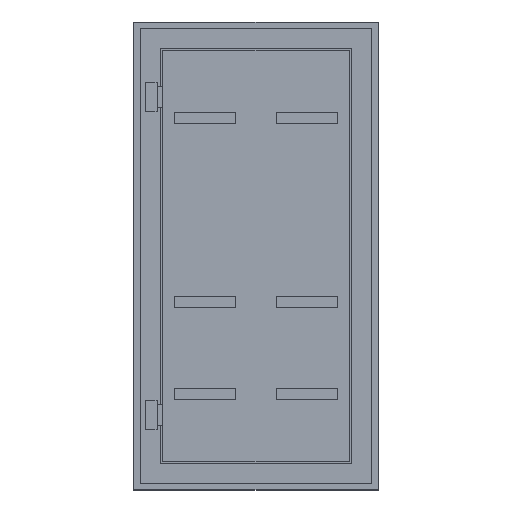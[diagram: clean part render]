
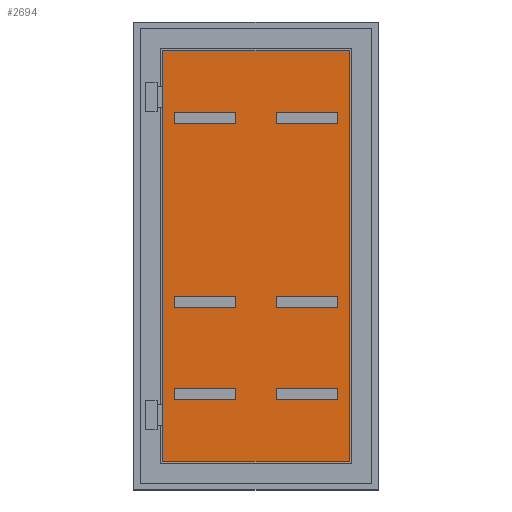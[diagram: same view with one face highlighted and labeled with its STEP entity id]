
A CAD part, top view. The second image highlights one B-rep face of the part: STEP entity #2694.
In plain terms, the highlighted planar face has unit normal (0, 0, 1).
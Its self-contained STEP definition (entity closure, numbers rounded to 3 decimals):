
#643=DIRECTION('',(0.,-1.,0.));
#644=VECTOR('',#643,1832.);
#645=CARTESIAN_POINT('',(-416.,916.,-41.));
#646=LINE('',#645,#644);
#647=DIRECTION('',(-1.,0.,0.));
#648=VECTOR('',#647,832.);
#649=CARTESIAN_POINT('',(416.,916.,-41.));
#650=LINE('',#649,#648);
#651=DIRECTION('',(0.,1.,0.));
#652=VECTOR('',#651,1832.);
#653=CARTESIAN_POINT('',(416.,-916.,-41.));
#654=LINE('',#653,#652);
#655=DIRECTION('',(1.,0.,0.));
#656=VECTOR('',#655,832.);
#657=CARTESIAN_POINT('',(-416.,-916.,-41.));
#658=LINE('',#657,#656);
#659=DIRECTION('',(1.,0.,0.));
#660=VECTOR('',#659,275.);
#661=CARTESIAN_POINT('',(-365.,590.,-41.));
#662=LINE('',#661,#660);
#663=DIRECTION('',(0.,1.,0.));
#664=VECTOR('',#663,50.);
#665=CARTESIAN_POINT('',(-90.,590.,-41.));
#666=LINE('',#665,#664);
#667=DIRECTION('',(1.,0.,0.));
#668=VECTOR('',#667,275.);
#669=CARTESIAN_POINT('',(-365.,640.,-41.));
#670=LINE('',#669,#668);
#671=DIRECTION('',(0.,1.,0.));
#672=VECTOR('',#671,50.);
#673=CARTESIAN_POINT('',(-365.,590.,-41.));
#674=LINE('',#673,#672);
#675=DIRECTION('',(1.,0.,0.));
#676=VECTOR('',#675,275.);
#677=CARTESIAN_POINT('',(90.,590.,-41.));
#678=LINE('',#677,#676);
#679=DIRECTION('',(0.,1.,0.));
#680=VECTOR('',#679,50.);
#681=CARTESIAN_POINT('',(365.,590.,-41.));
#682=LINE('',#681,#680);
#683=DIRECTION('',(1.,0.,0.));
#684=VECTOR('',#683,275.);
#685=CARTESIAN_POINT('',(90.,640.,-41.));
#686=LINE('',#685,#684);
#687=DIRECTION('',(0.,1.,0.));
#688=VECTOR('',#687,50.);
#689=CARTESIAN_POINT('',(90.,590.,-41.));
#690=LINE('',#689,#688);
#691=DIRECTION('',(0.,-1.,0.));
#692=VECTOR('',#691,50.);
#693=CARTESIAN_POINT('',(90.,-180.,-41.));
#694=LINE('',#693,#692);
#695=DIRECTION('',(1.,0.,0.));
#696=VECTOR('',#695,275.);
#697=CARTESIAN_POINT('',(90.,-230.,-41.));
#698=LINE('',#697,#696);
#699=DIRECTION('',(0.,1.,0.));
#700=VECTOR('',#699,50.);
#701=CARTESIAN_POINT('',(365.,-230.,-41.));
#702=LINE('',#701,#700);
#703=DIRECTION('',(-1.,0.,0.));
#704=VECTOR('',#703,275.);
#705=CARTESIAN_POINT('',(365.,-180.,-41.));
#706=LINE('',#705,#704);
#707=DIRECTION('',(-1.,0.,0.));
#708=VECTOR('',#707,275.);
#709=CARTESIAN_POINT('',(-90.,-180.,-41.));
#710=LINE('',#709,#708);
#711=DIRECTION('',(0.,-1.,0.));
#712=VECTOR('',#711,50.);
#713=CARTESIAN_POINT('',(-365.,-180.,-41.));
#714=LINE('',#713,#712);
#715=DIRECTION('',(1.,0.,0.));
#716=VECTOR('',#715,275.);
#717=CARTESIAN_POINT('',(-365.,-230.,-41.));
#718=LINE('',#717,#716);
#719=DIRECTION('',(0.,1.,0.));
#720=VECTOR('',#719,50.);
#721=CARTESIAN_POINT('',(-90.,-230.,-41.));
#722=LINE('',#721,#720);
#723=DIRECTION('',(0.,-1.,0.));
#724=VECTOR('',#723,50.);
#725=CARTESIAN_POINT('',(90.,-590.,-41.));
#726=LINE('',#725,#724);
#727=DIRECTION('',(1.,0.,0.));
#728=VECTOR('',#727,275.);
#729=CARTESIAN_POINT('',(90.,-640.,-41.));
#730=LINE('',#729,#728);
#731=DIRECTION('',(0.,1.,0.));
#732=VECTOR('',#731,50.);
#733=CARTESIAN_POINT('',(365.,-640.,-41.));
#734=LINE('',#733,#732);
#735=DIRECTION('',(-1.,0.,0.));
#736=VECTOR('',#735,275.);
#737=CARTESIAN_POINT('',(365.,-590.,-41.));
#738=LINE('',#737,#736);
#739=DIRECTION('',(-1.,0.,0.));
#740=VECTOR('',#739,275.);
#741=CARTESIAN_POINT('',(-90.,-590.,-41.));
#742=LINE('',#741,#740);
#743=DIRECTION('',(0.,-1.,0.));
#744=VECTOR('',#743,50.);
#745=CARTESIAN_POINT('',(-365.,-590.,-41.));
#746=LINE('',#745,#744);
#747=DIRECTION('',(1.,0.,0.));
#748=VECTOR('',#747,275.);
#749=CARTESIAN_POINT('',(-365.,-640.,-41.));
#750=LINE('',#749,#748);
#751=DIRECTION('',(0.,1.,0.));
#752=VECTOR('',#751,50.);
#753=CARTESIAN_POINT('',(-90.,-640.,-41.));
#754=LINE('',#753,#752);
#1375=CARTESIAN_POINT('',(-416.,916.,-41.));
#1376=CARTESIAN_POINT('',(-416.,-916.,-41.));
#1377=VERTEX_POINT('',#1375);
#1378=VERTEX_POINT('',#1376);
#1379=CARTESIAN_POINT('',(416.,-916.,-41.));
#1380=VERTEX_POINT('',#1379);
#1381=CARTESIAN_POINT('',(416.,916.,-41.));
#1382=VERTEX_POINT('',#1381);
#1647=CARTESIAN_POINT('',(-365.,590.,-41.));
#1648=CARTESIAN_POINT('',(-90.,590.,-41.));
#1649=VERTEX_POINT('',#1647);
#1650=VERTEX_POINT('',#1648);
#1651=CARTESIAN_POINT('',(90.,590.,-41.));
#1652=CARTESIAN_POINT('',(365.,590.,-41.));
#1653=VERTEX_POINT('',#1651);
#1654=VERTEX_POINT('',#1652);
#1655=CARTESIAN_POINT('',(-365.,640.,-41.));
#1656=CARTESIAN_POINT('',(-90.,640.,-41.));
#1657=VERTEX_POINT('',#1655);
#1658=VERTEX_POINT('',#1656);
#1659=CARTESIAN_POINT('',(90.,640.,-41.));
#1660=CARTESIAN_POINT('',(365.,640.,-41.));
#1661=VERTEX_POINT('',#1659);
#1662=VERTEX_POINT('',#1660);
#1711=CARTESIAN_POINT('',(90.,-180.,-41.));
#1712=CARTESIAN_POINT('',(90.,-230.,-41.));
#1713=VERTEX_POINT('',#1711);
#1714=VERTEX_POINT('',#1712);
#1715=CARTESIAN_POINT('',(365.,-230.,-41.));
#1716=VERTEX_POINT('',#1715);
#1717=CARTESIAN_POINT('',(365.,-180.,-41.));
#1718=VERTEX_POINT('',#1717);
#1719=CARTESIAN_POINT('',(-90.,-180.,-41.));
#1720=CARTESIAN_POINT('',(-365.,-180.,-41.));
#1721=VERTEX_POINT('',#1719);
#1722=VERTEX_POINT('',#1720);
#1723=CARTESIAN_POINT('',(-365.,-230.,-41.));
#1724=VERTEX_POINT('',#1723);
#1725=CARTESIAN_POINT('',(-90.,-230.,-41.));
#1726=VERTEX_POINT('',#1725);
#1775=CARTESIAN_POINT('',(90.,-590.,-41.));
#1776=CARTESIAN_POINT('',(90.,-640.,-41.));
#1777=VERTEX_POINT('',#1775);
#1778=VERTEX_POINT('',#1776);
#1779=CARTESIAN_POINT('',(365.,-640.,-41.));
#1780=VERTEX_POINT('',#1779);
#1781=CARTESIAN_POINT('',(365.,-590.,-41.));
#1782=VERTEX_POINT('',#1781);
#1783=CARTESIAN_POINT('',(-90.,-590.,-41.));
#1784=CARTESIAN_POINT('',(-365.,-590.,-41.));
#1785=VERTEX_POINT('',#1783);
#1786=VERTEX_POINT('',#1784);
#1787=CARTESIAN_POINT('',(-365.,-640.,-41.));
#1788=VERTEX_POINT('',#1787);
#1789=CARTESIAN_POINT('',(-90.,-640.,-41.));
#1790=VERTEX_POINT('',#1789);
#2625=CARTESIAN_POINT('',(0.,0.,-41.));
#2626=DIRECTION('',(0.,0.,1.));
#2627=DIRECTION('',(1.,0.,0.));
#2628=AXIS2_PLACEMENT_3D('',#2625,#2626,#2627);
#2629=PLANE('',#2628);
#2631=ORIENTED_EDGE('',*,*,#2630,.F.);
#2633=ORIENTED_EDGE('',*,*,#2632,.F.);
#2635=ORIENTED_EDGE('',*,*,#2634,.F.);
#2637=ORIENTED_EDGE('',*,*,#2636,.F.);
#2638=EDGE_LOOP('',(#2631,#2633,#2635,#2637));
#2639=FACE_OUTER_BOUND('',#2638,.F.);
#2640=ORIENTED_EDGE('',*,*,#2393,.T.);
#2641=ORIENTED_EDGE('',*,*,#2460,.T.);
#2642=ORIENTED_EDGE('',*,*,#2525,.F.);
#2643=ORIENTED_EDGE('',*,*,#2590,.F.);
#2644=EDGE_LOOP('',(#2640,#2641,#2642,#2643));
#2645=FACE_BOUND('',#2644,.F.);
#2646=ORIENTED_EDGE('',*,*,#2416,.T.);
#2648=ORIENTED_EDGE('',*,*,#2647,.T.);
#2649=ORIENTED_EDGE('',*,*,#2547,.F.);
#2651=ORIENTED_EDGE('',*,*,#2650,.F.);
#2652=EDGE_LOOP('',(#2646,#2648,#2649,#2651));
#2653=FACE_BOUND('',#2652,.F.);
#2655=ORIENTED_EDGE('',*,*,#2654,.T.);
#2657=ORIENTED_EDGE('',*,*,#2656,.T.);
#2659=ORIENTED_EDGE('',*,*,#2658,.T.);
#2661=ORIENTED_EDGE('',*,*,#2660,.T.);
#2662=EDGE_LOOP('',(#2655,#2657,#2659,#2661));
#2663=FACE_BOUND('',#2662,.F.);
#2665=ORIENTED_EDGE('',*,*,#2664,.T.);
#2667=ORIENTED_EDGE('',*,*,#2666,.T.);
#2669=ORIENTED_EDGE('',*,*,#2668,.T.);
#2671=ORIENTED_EDGE('',*,*,#2670,.T.);
#2672=EDGE_LOOP('',(#2665,#2667,#2669,#2671));
#2673=FACE_BOUND('',#2672,.F.);
#2675=ORIENTED_EDGE('',*,*,#2674,.T.);
#2677=ORIENTED_EDGE('',*,*,#2676,.T.);
#2679=ORIENTED_EDGE('',*,*,#2678,.T.);
#2681=ORIENTED_EDGE('',*,*,#2680,.T.);
#2682=EDGE_LOOP('',(#2675,#2677,#2679,#2681));
#2683=FACE_BOUND('',#2682,.F.);
#2685=ORIENTED_EDGE('',*,*,#2684,.T.);
#2687=ORIENTED_EDGE('',*,*,#2686,.T.);
#2689=ORIENTED_EDGE('',*,*,#2688,.T.);
#2691=ORIENTED_EDGE('',*,*,#2690,.T.);
#2692=EDGE_LOOP('',(#2685,#2687,#2689,#2691));
#2693=FACE_BOUND('',#2692,.F.);
#2393=EDGE_CURVE('',#1649,#1650,#662,.T.);
#2416=EDGE_CURVE('',#1653,#1654,#678,.T.);
#2460=EDGE_CURVE('',#1650,#1658,#666,.T.);
#2525=EDGE_CURVE('',#1657,#1658,#670,.T.);
#2547=EDGE_CURVE('',#1661,#1662,#686,.T.);
#2590=EDGE_CURVE('',#1649,#1657,#674,.T.);
#2630=EDGE_CURVE('',#1377,#1378,#646,.T.);
#2632=EDGE_CURVE('',#1382,#1377,#650,.T.);
#2634=EDGE_CURVE('',#1380,#1382,#654,.T.);
#2636=EDGE_CURVE('',#1378,#1380,#658,.T.);
#2647=EDGE_CURVE('',#1654,#1662,#682,.T.);
#2650=EDGE_CURVE('',#1653,#1661,#690,.T.);
#2654=EDGE_CURVE('',#1713,#1714,#694,.T.);
#2656=EDGE_CURVE('',#1714,#1716,#698,.T.);
#2658=EDGE_CURVE('',#1716,#1718,#702,.T.);
#2660=EDGE_CURVE('',#1718,#1713,#706,.T.);
#2664=EDGE_CURVE('',#1721,#1722,#710,.T.);
#2666=EDGE_CURVE('',#1722,#1724,#714,.T.);
#2668=EDGE_CURVE('',#1724,#1726,#718,.T.);
#2670=EDGE_CURVE('',#1726,#1721,#722,.T.);
#2674=EDGE_CURVE('',#1777,#1778,#726,.T.);
#2676=EDGE_CURVE('',#1778,#1780,#730,.T.);
#2678=EDGE_CURVE('',#1780,#1782,#734,.T.);
#2680=EDGE_CURVE('',#1782,#1777,#738,.T.);
#2684=EDGE_CURVE('',#1785,#1786,#742,.T.);
#2686=EDGE_CURVE('',#1786,#1788,#746,.T.);
#2688=EDGE_CURVE('',#1788,#1790,#750,.T.);
#2690=EDGE_CURVE('',#1790,#1785,#754,.T.);
#2694=ADVANCED_FACE('',(#2639,#2645,#2653,#2663,#2673,#2683,#2693),#2629,.T.);
